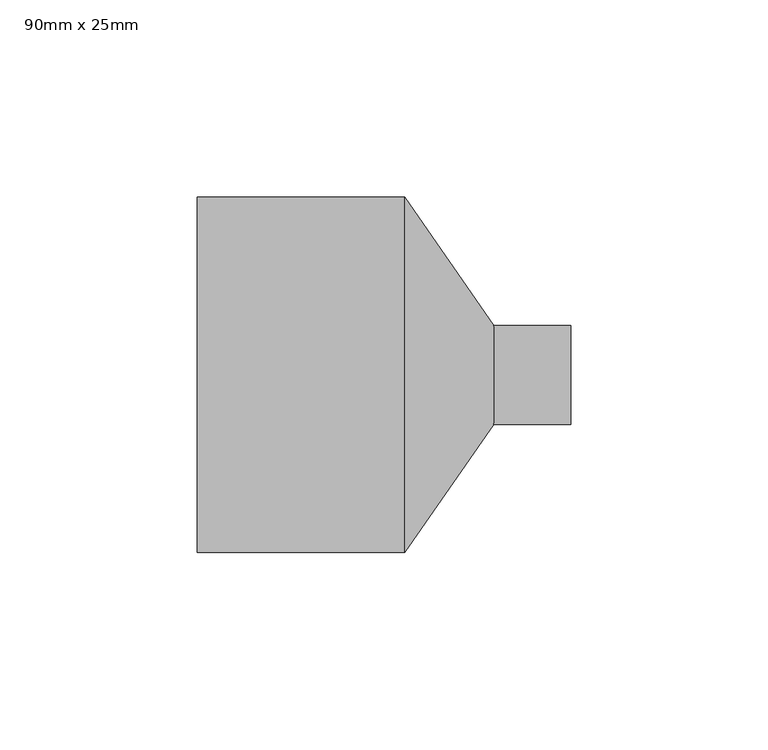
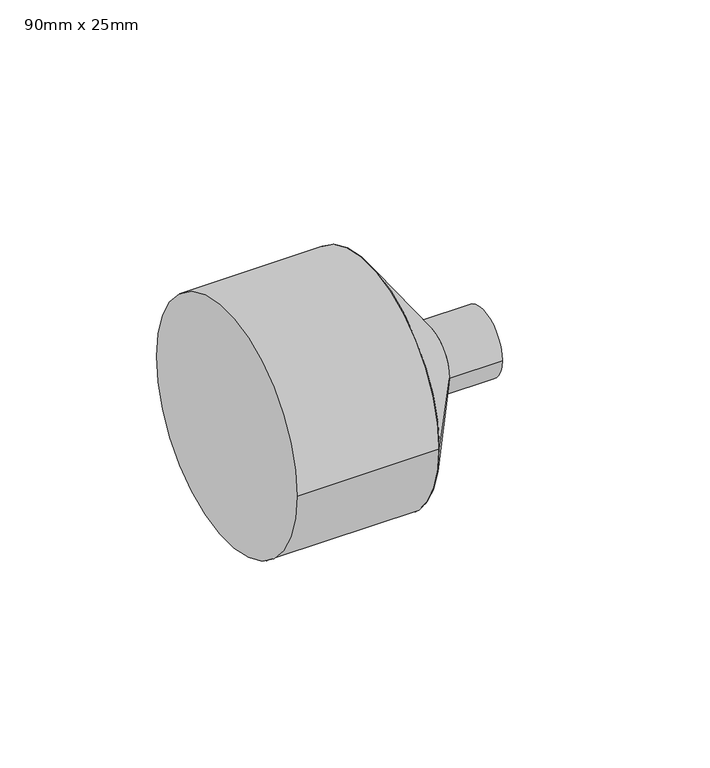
"""IFC4 building model written with IfcOpenShell, lengths in millimetres: pipe fitting geometry, PipeFitting_HTA_CPVC_ReducingBushesLongPattern : 90mm x 25mm."""

from ifc_helpers import new_model, si_unit, point, frame, origin, origin_2d, place, context, project, spatial, polyline, circle_curve, trimmed, segment, composite_curve, outline, extrude, source, transform, mapped, element, save
from ifc_brep_helpers import plane_surface, revolved_surface, advanced_brep


def pipe_fitting_90mm_x_25mm_8451e4cb(model_context):
    return source(origin(), model_context, "Body", "SolidModel", [
        advanced_brep(
        [(75.0, -12.5, 0.0), (75.0, 12.5, 0.0), (52.5, -45.0, 0.0), (52.5, 45.0, 0.0)],
        [
            (0, 1, circle_curve(frame((75.0, 0.0, 0.0), z_axis=(1.0, 0.0, 0.0), x_axis=(0.0, -1.0, 0.0)), 12.5)),
            (1, 0, circle_curve(frame((75.0, 0.0, 0.0), z_axis=(1.0, 0.0, 0.0), x_axis=(0.0, 1.0, 0.0)), 12.5)),
            (2, 3, circle_curve(frame((52.5, 0.0, 0.0), z_axis=(-1.0, 0.0, 0.0), x_axis=(0.0, 1.0, 0.0)), 45.0)),
            (3, 2, circle_curve(frame((52.5, 0.0, 0.0), z_axis=(-1.0, 0.0, 0.0), x_axis=(0.0, -1.0, 0.0)), 45.0)),
            (3, 1),
            (0, 2),
        ],
        [
            plane_surface(frame((75.0, 0.0, 0.0), z_axis=(1.0, 0.0, 0.0), x_axis=(0.0, 0.0, -1.0))),
            plane_surface(frame((52.5, 0.0, 0.0), z_axis=(-1.0, 0.0, 0.0), x_axis=(0.0, 0.0, -1.0))),
            revolved_surface(polyline([(75.0, -12.50000004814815, 0.0), (52.5, -45.0, 0.0)]), (83.6538462, 0.0, 0.0), (-1.0, 0.0, 0.0)),
            revolved_surface(polyline([(75.0, 12.50000004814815, 0.0), (52.5, 45.0, 0.0)]), (83.6538462, 0.0, 0.0), (-1.0, 0.0, 0.0)),
        ],
        [
            (0, [[1, 2]]),
            (1, [[3, 4]]),
            (2, [[-4, 5, -1, 6]]),
            (3, [[-3, -6, -2, -5]]),
        ],
    ),
        extrude(outline(composite_curve([segment(trimmed(circle_curve(origin_2d(), 12.5), [point((-12.5, 0.0))], [point((12.5, 0.0))], False, "CARTESIAN"), True, "CONTINUOUS"), segment(trimmed(circle_curve(origin_2d(), 12.5), [point((12.5, 0.0))], [point((-12.5, 0.0))], False, "CARTESIAN"), True, "CONTINUOUS")], self_intersect=False)), frame((75.0, 0.0, 0.0), z_axis=(1.0, 0.0, 0.0), x_axis=(0.0, 1.0, 0.0)), (0.0, 0.0, 1.0), 19.5),
        extrude(outline(composite_curve([segment(trimmed(circle_curve(origin_2d(), 45.0), [point((-45.0, 0.0))], [point((45.0, 0.0))], False, "CARTESIAN"), True, "CONTINUOUS"), segment(trimmed(circle_curve(origin_2d(), 45.0), [point((45.0, 0.0))], [point((-45.0, 0.0))], False, "CARTESIAN"), True, "CONTINUOUS")], self_intersect=False)), frame((0.0, 0.0, 0.0), z_axis=(1.0, 0.0, 0.0), x_axis=(0.0, 1.0, 0.0)), (0.0, 0.0, 1.0), 52.5),
    ])


if __name__ == "__main__":
    model = new_model("IFC4")
    model_context = context("Model", 3, world=origin())
    ifc_project = project(units=[si_unit("LENGTHUNIT", "METRE", prefix="MILLI")], contexts=[model_context])
    site = spatial("IfcSite", under=ifc_project)
    building = spatial("IfcBuilding", under=site)
    placement = place(None, origin())
    pipe_fitting_90mm_x_25mm_shape = pipe_fitting_90mm_x_25mm_8451e4cb(model_context)
    element("IfcPipeFitting", 1, ObjectType="PipeFitting_HTA_CPVC_ReducingBushesLongPattern : 90mm x 25mm", at=placement, inside=building, context=model_context, shape_type="MappedRepresentation", body=[
        mapped(pipe_fitting_90mm_x_25mm_shape, transform((0.0, 0.0, 0.0), x_axis=(1.0, 0.0, 0.0), y_axis=(0.0, 1.0, 0.0), z_axis=(0.0, 0.0, 1.0))),
    ])
    save(model, "model.ifc")
